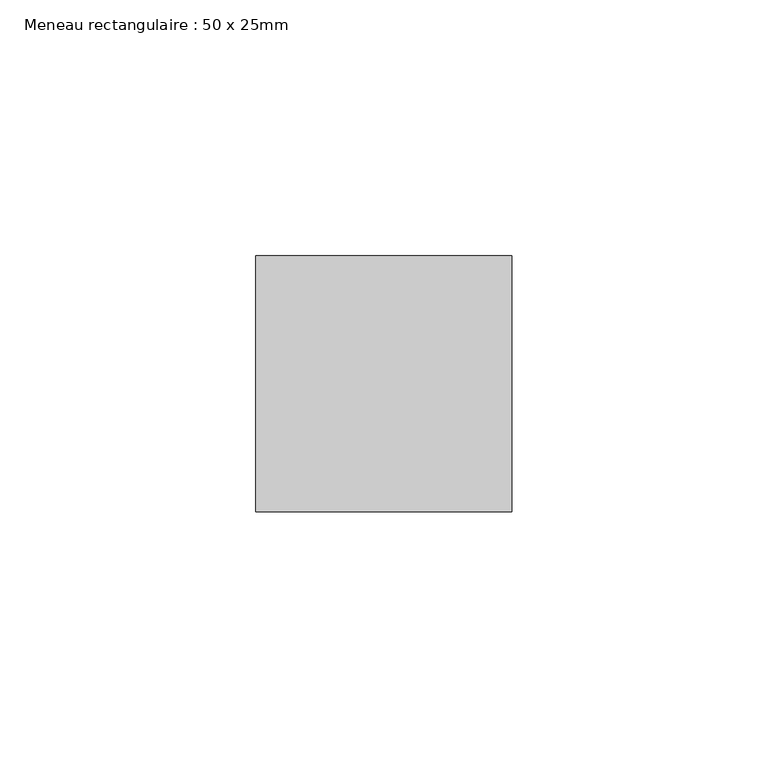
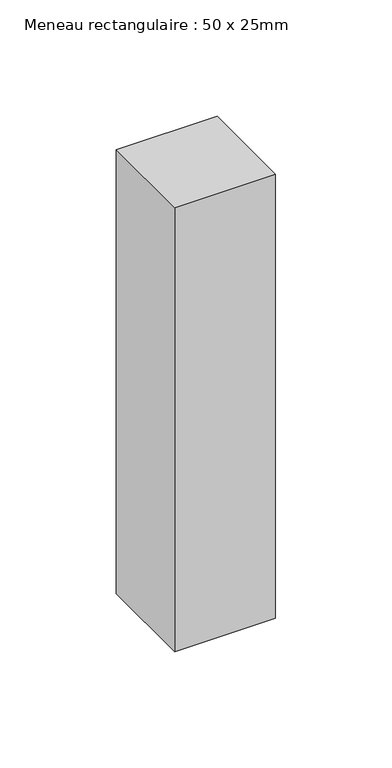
"""IFC4 building model written with IfcOpenShell, lengths in millimetres: member geometry, Meneau rectangulaire : 50 x 25mm."""

from ifc_helpers import new_model, si_unit, frame, origin, place, context, project, spatial, polyline, outline, extrude, source, transform, mapped, element, save


def meneau_rectangulaire_50_x_25mm_1f82da17(model_context):
    return source(origin(), model_context, "Body", "SweptSolid", [
        extrude(outline(polyline([(0.0, 0.0), (0.0, -50.0), (-50.0, -50.0), (-50.0, 0.0), (0.0, 0.0)])), frame((0.0, 0.0, -233.0), z_axis=(0.0, 0.0, 1.0), x_axis=(1.0, 0.0, 0.0)), (0.0, 0.0, 1.0), 233.0),
    ])


if __name__ == "__main__":
    model = new_model("IFC4")
    model_context = context("Model", 3, world=origin())
    ifc_project = project(units=[si_unit("LENGTHUNIT", "METRE", prefix="MILLI")], contexts=[model_context])
    site = spatial("IfcSite", under=ifc_project)
    building = spatial("IfcBuilding", under=site)
    placement = place(None, origin())
    meneau_rectangulaire_50_x_25mm_shape = meneau_rectangulaire_50_x_25mm_1f82da17(model_context)
    element("IfcMember", 1, ObjectType="Meneau rectangulaire : 50 x 25mm", at=placement, inside=building, context=model_context, shape_type="MappedRepresentation", body=[
        mapped(meneau_rectangulaire_50_x_25mm_shape, transform((0.0, 0.0, 0.0), x_axis=(1.0, 0.0, 0.0), y_axis=(0.0, 1.0, 0.0), z_axis=(0.0, 0.0, 1.0))),
    ])
    save(model, "model.ifc")
